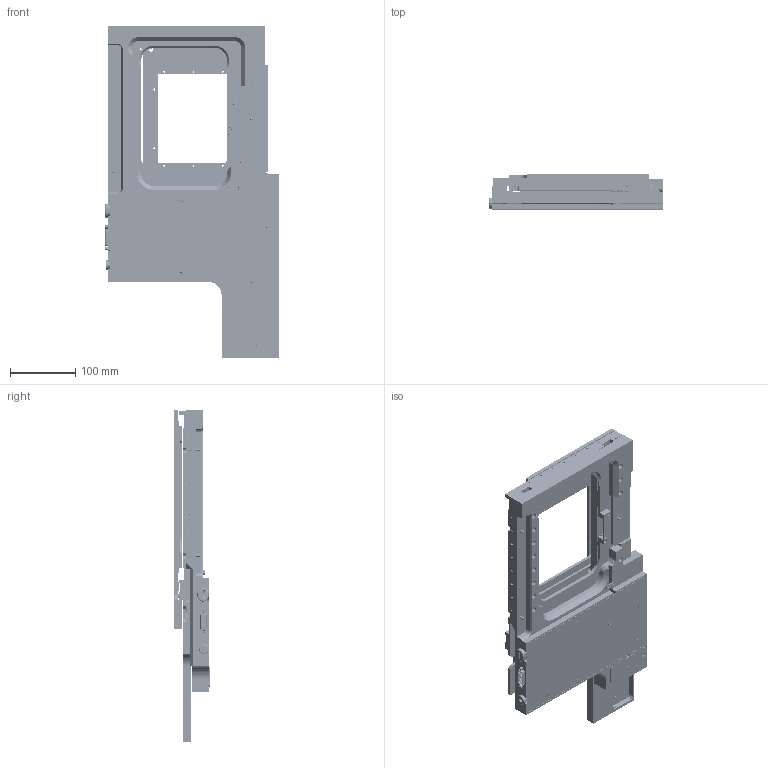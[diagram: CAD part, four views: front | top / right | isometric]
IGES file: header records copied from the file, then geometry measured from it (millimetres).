
Start section: SolidWorks IGES file using analytic representation for surfaces
Global section: file name: C:\1-DATA-FILES-FOR-PROJECTS\2022-PRODUCT-REFERENCE-MODELS\1-STAGE-REFERENCE-MODELS\HLD117\HLD117DM\HLD117DM-REFERENCE-STAGE-PARTS\HLD117DM-REFERENCE-IGES.IGS; native system: SolidWorks 2019; preprocessor: SolidWorks 2019; author: jwilliams; date: 220223.100048; units: inch
Bounding box: 266.63 x 53.85 x 508.47 mm (x, y, z)
Surface area: 673212.2 mm2 (no closed solid volume)
Topology: 0 solids, 0 shells, 5732 faces, 73728 edges, 73655 vertices
Faces by surface type: bspline 3691, revolution 2041
